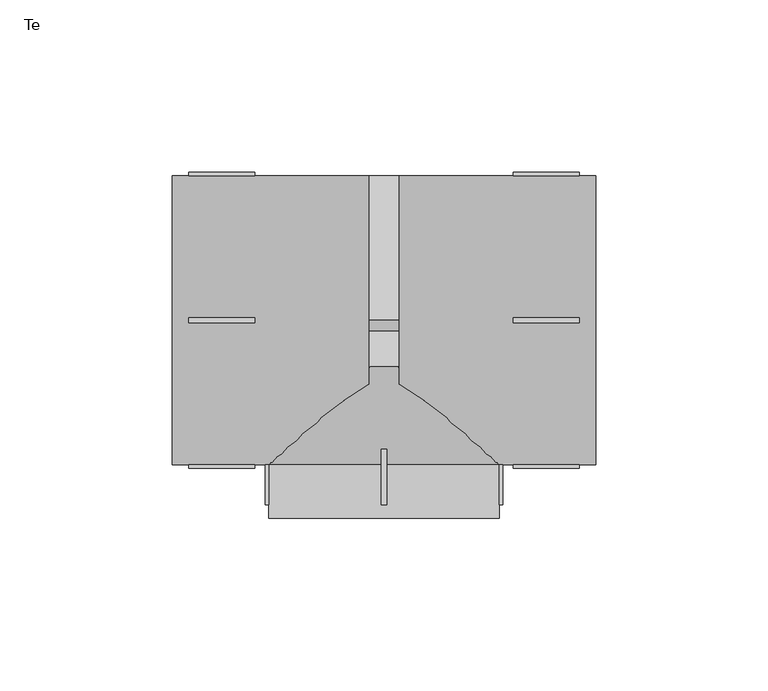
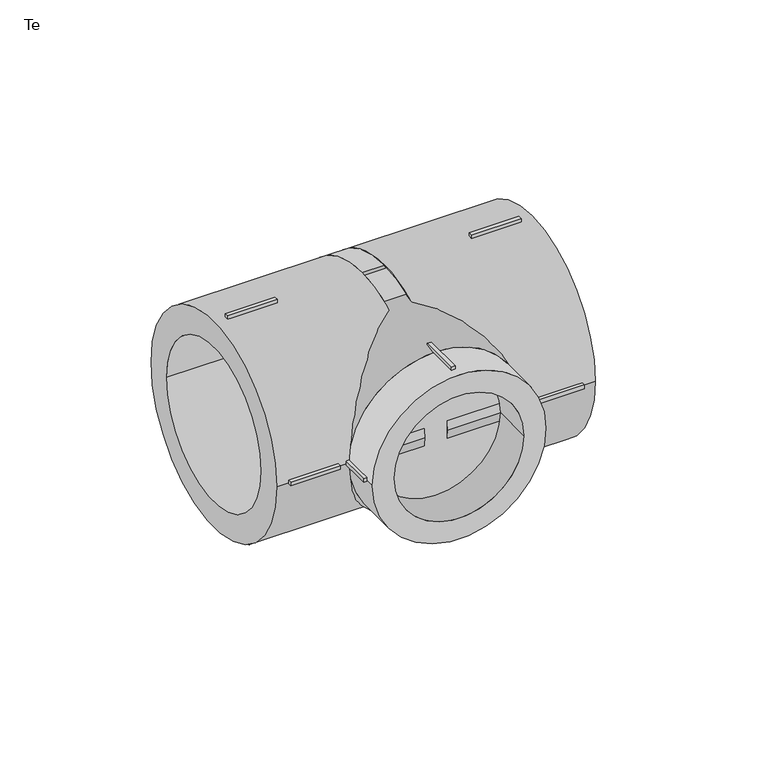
"""IFC4 building model written with IfcOpenShell, lengths in millimetres: pipe fitting geometry, EGB_VASEN_ PPR_Te WXR300_Te reducida WXR310 : Te."""

from ifc_helpers import new_model, si_unit, point, frame, origin, origin_2d, place, context, project, spatial, polyline, circle_curve, trimmed, segment, composite_curve, outline, extrude, source, transform, mapped, element, save
from ifc_brep_helpers import plane_surface, revolved_surface, advanced_brep


def te_a745b561(model_context):
    return source(origin(), model_context, "Body", "SolidModel", [
        extrude(outline(polyline([(-0.75, -37.5), (0.75, -37.5), (0.75, -53.5), (-0.75, -53.5), (-0.75, -37.5)])), frame((0.0, 0.0, 32.5), z_axis=(0.0, 0.0, 1.0), x_axis=(1.0, 0.0, 0.0)), (0.0, 0.0, 1.0), 2.0),
        extrude(outline(polyline([(-0.75, -37.5), (0.75, -37.5), (0.75, -53.5), (-0.75, -53.5), (-0.75, -37.5)])), frame((0.0, 0.0, -34.5), z_axis=(0.0, 0.0, 1.0), x_axis=(1.0, 0.0, 0.0)), (0.0, 0.0, 1.0), 2.0),
        extrude(outline(polyline([(32.5, -37.5), (34.5, -37.5), (34.5, -53.5), (32.5, -53.5), (32.5, -37.5)])), frame((0.0, 0.0, -0.75), z_axis=(0.0, 0.0, 1.0), x_axis=(1.0, 0.0, 0.0)), (0.0, 0.0, 1.0), 1.5),
        extrude(outline(polyline([(-34.5, -37.5), (-32.5, -37.5), (-32.5, -53.5), (-34.5, -53.5), (-34.5, -37.5)])), frame((0.0, 0.0, -0.75), z_axis=(0.0, 0.0, 1.0), x_axis=(1.0, 0.0, 0.0)), (0.0, 0.0, 1.0), 1.5),
        extrude(outline(polyline([(37.5, -0.75), (37.5, 0.75), (56.7, 0.75), (56.7, -0.75), (37.5, -0.75)])), frame((0.0, 0.0, 41.0), z_axis=(0.0, 0.0, 1.0), x_axis=(1.0, 0.0, 0.0)), (0.0, 0.0, 1.0), 2.0),
        extrude(outline(polyline([(37.5, -0.75), (37.5, 0.75), (56.7, 0.75), (56.7, -0.75), (37.5, -0.75)])), frame((0.0, 0.0, -43.0), z_axis=(0.0, 0.0, 1.0), x_axis=(1.0, 0.0, 0.0)), (0.0, 0.0, 1.0), 2.0),
        extrude(outline(polyline([(37.5, 41.0), (37.5, 43.0), (56.7, 43.0), (56.7, 41.0), (37.5, 41.0)])), frame((0.0, 0.0, -0.75), z_axis=(0.0, 0.0, 1.0), x_axis=(1.0, 0.0, 0.0)), (0.0, 0.0, 1.0), 1.5),
        extrude(outline(polyline([(37.5, -43.0), (37.5, -41.0), (56.7, -41.0), (56.7, -43.0), (37.5, -43.0)])), frame((0.0, 0.0, -0.75), z_axis=(0.0, 0.0, 1.0), x_axis=(1.0, 0.0, 0.0)), (0.0, 0.0, 1.0), 1.5),
        extrude(outline(polyline([(-37.5, 0.75), (-37.5, -0.75), (-56.7, -0.75), (-56.7, 0.75), (-37.5, 0.75)])), frame((0.0, 0.0, 41.0), z_axis=(0.0, 0.0, 1.0), x_axis=(1.0, 0.0, 0.0)), (0.0, 0.0, 1.0), 2.0),
        extrude(outline(polyline([(-37.5, 0.75), (-37.5, -0.75), (-56.7, -0.75), (-56.7, 0.75), (-37.5, 0.75)])), frame((0.0, 0.0, -43.0), z_axis=(0.0, 0.0, 1.0), x_axis=(1.0, 0.0, 0.0)), (0.0, 0.0, 1.0), 2.0),
        extrude(outline(polyline([(-37.5, 43.0), (-37.5, 41.0), (-56.7, 41.0), (-56.7, 43.0), (-37.5, 43.0)])), frame((0.0, 0.0, -0.75), z_axis=(0.0, 0.0, 1.0), x_axis=(1.0, 0.0, 0.0)), (0.0, 0.0, 1.0), 1.5),
        extrude(outline(polyline([(-37.5, -41.0), (-37.5, -43.0), (-56.7, -43.0), (-56.7, -41.0), (-37.5, -41.0)])), frame((0.0, 0.0, -0.75), z_axis=(0.0, 0.0, 1.0), x_axis=(1.0, 0.0, 0.0)), (0.0, 0.0, 1.0), 1.5),
        extrude(outline(composite_curve([segment(trimmed(circle_curve(origin_2d(), 33.5), [point((0.0, 33.5))], [point((0.0, -33.5))], False, "CARTESIAN"), True, "CONTINUOUS"), segment(trimmed(circle_curve(origin_2d(), 33.5), [point((0.0, -33.5))], [point((0.0, 33.5))], False, "CARTESIAN"), True, "CONTINUOUS")], self_intersect=False), holes=[composite_curve([segment(trimmed(circle_curve(origin_2d(), 25.0), [point((0.0, 25.0))], [point((0.0, -25.0))], True, "CARTESIAN"), True, "CONTINUOUS"), segment(trimmed(circle_curve(origin_2d(), 25.0), [point((0.0, -25.0))], [point((0.0, 25.0))], True, "CARTESIAN"), True, "CONTINUOUS")], self_intersect=False)]), frame((0.0, -57.5, 0.0), z_axis=(0.0, 1.0, 0.0), x_axis=(0.0, 0.0, 1.0)), (0.0, 0.0, 1.0), 15.5),
        extrude(outline(composite_curve([segment(trimmed(circle_curve(origin_2d(), 42.0), [point((-42.0, 0.0))], [point((42.0, 0.0))], False, "CARTESIAN"), True, "CONTINUOUS"), segment(trimmed(circle_curve(origin_2d(), 42.0), [point((42.0, 0.0))], [point((-42.0, 0.0))], False, "CARTESIAN"), True, "CONTINUOUS")], self_intersect=False), holes=[composite_curve([segment(trimmed(circle_curve(origin_2d(), 31.5), [point((-31.5, 0.0))], [point((31.5, 0.0))], True, "CARTESIAN"), True, "CONTINUOUS"), segment(trimmed(circle_curve(origin_2d(), 31.5), [point((31.5, 0.0))], [point((-31.5, 0.0))], True, "CARTESIAN"), True, "CONTINUOUS")], self_intersect=False)]), frame((4.4, 0.0, 0.0), z_axis=(1.0, 0.0, 0.0), x_axis=(0.0, 1.0, 0.0)), (0.0, 0.0, 1.0), 57.1),
        extrude(outline(composite_curve([segment(trimmed(circle_curve(origin_2d(), 42.0), [point((-42.0, 0.0))], [point((42.0, 0.0))], False, "CARTESIAN"), True, "CONTINUOUS"), segment(trimmed(circle_curve(origin_2d(), 42.0), [point((42.0, 0.0))], [point((-42.0, 0.0))], False, "CARTESIAN"), True, "CONTINUOUS")], self_intersect=False), holes=[composite_curve([segment(trimmed(circle_curve(origin_2d(), 31.5), [point((-31.5, 0.0))], [point((31.5, 0.0))], True, "CARTESIAN"), True, "CONTINUOUS"), segment(trimmed(circle_curve(origin_2d(), 31.5), [point((31.5, 0.0))], [point((-31.5, 0.0))], True, "CARTESIAN"), True, "CONTINUOUS")], self_intersect=False)]), frame((-61.5, 0.0, 0.0), z_axis=(1.0, 0.0, 0.0), x_axis=(0.0, 1.0, 0.0)), (0.0, 0.0, 1.0), 57.1),
        advanced_brep(
        [(42.0, 0.0, 0.0), (-42.0, 0.0, 0.0), (33.5, -42.0, 0.0), (-33.5, -42.0, 0.0)],
        [
            (0, 1, circle_curve(frame((0.0, 0.0, 0.0), z_axis=(0.0, 1.0, 0.0), x_axis=(1.0, 0.0, 0.0)), 42.0)),
            (1, 0, circle_curve(frame((0.0, 0.0, 0.0), z_axis=(0.0, 1.0, 0.0), x_axis=(-1.0, 0.0, 0.0)), 42.0)),
            (2, 3, circle_curve(frame((0.0, -42.0, 0.0), z_axis=(0.0, -1.0, 0.0), x_axis=(-1.0, 0.0, 0.0)), 33.5)),
            (3, 2, circle_curve(frame((0.0, -42.0, 0.0), z_axis=(0.0, -1.0, 0.0), x_axis=(1.0, 0.0, 0.0)), 33.5)),
            (3, 1),
            (0, 2),
        ],
        [
            plane_surface(frame((0.0, 0.0, 0.0), z_axis=(0.0, 1.0, 0.0), x_axis=(0.0, 0.0, -1.0))),
            plane_surface(frame((0.0, -42.0, 0.0), z_axis=(0.0, -1.0, 0.0), x_axis=(0.0, 0.0, -1.0))),
            revolved_surface(polyline([(-33.50000000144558, -42.0, 0.0), (-42.0, 0.0, 0.0)]), (0.0, -207.5294118, 0.0), (0.0, 1.0, 0.0)),
            revolved_surface(polyline([(33.50000000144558, -42.0, 0.0), (42.0, 0.0, 0.0)]), (0.0, -207.5294118, 0.0), (0.0, 1.0, 0.0)),
        ],
        [
            (0, [[1, 2]]),
            (1, [[3, 4]]),
            (2, [[-4, 5, -1, 6]]),
            (3, [[-3, -6, -2, -5]]),
        ],
    ),
        extrude(outline(composite_curve([segment(trimmed(circle_curve(origin_2d(), 42.0), [point((-42.0, 0.0))], [point((42.0, 0.0))], False, "CARTESIAN"), True, "CONTINUOUS"), segment(trimmed(circle_curve(origin_2d(), 42.0), [point((42.0, 0.0))], [point((-42.0, 0.0))], False, "CARTESIAN"), True, "CONTINUOUS")], self_intersect=False)), frame((-4.4, 0.0, 0.0), z_axis=(1.0, 0.0, 0.0), x_axis=(0.0, 1.0, 0.0)), (0.0, 0.0, 1.0), 8.8),
    ])


if __name__ == "__main__":
    model = new_model("IFC4")
    model_context = context("Model", 3, world=origin())
    ifc_project = project(units=[si_unit("LENGTHUNIT", "METRE", prefix="MILLI")], contexts=[model_context])
    site = spatial("IfcSite", under=ifc_project)
    building = spatial("IfcBuilding", under=site)
    placement = place(None, origin())
    te_shape = te_a745b561(model_context)
    element("IfcPipeFitting", 1, ObjectType="EGB_VASEN_ PPR_Te WXR300_Te reducida WXR310 : Te", at=placement, inside=building, context=model_context, shape_type="MappedRepresentation", body=[
        mapped(te_shape, transform((0.0, 0.0, 0.0), x_axis=(1.0, 0.0, 0.0), y_axis=(0.0, 1.0, 0.0), z_axis=(0.0, 0.0, 1.0))),
    ])
    save(model, "model.ifc")
